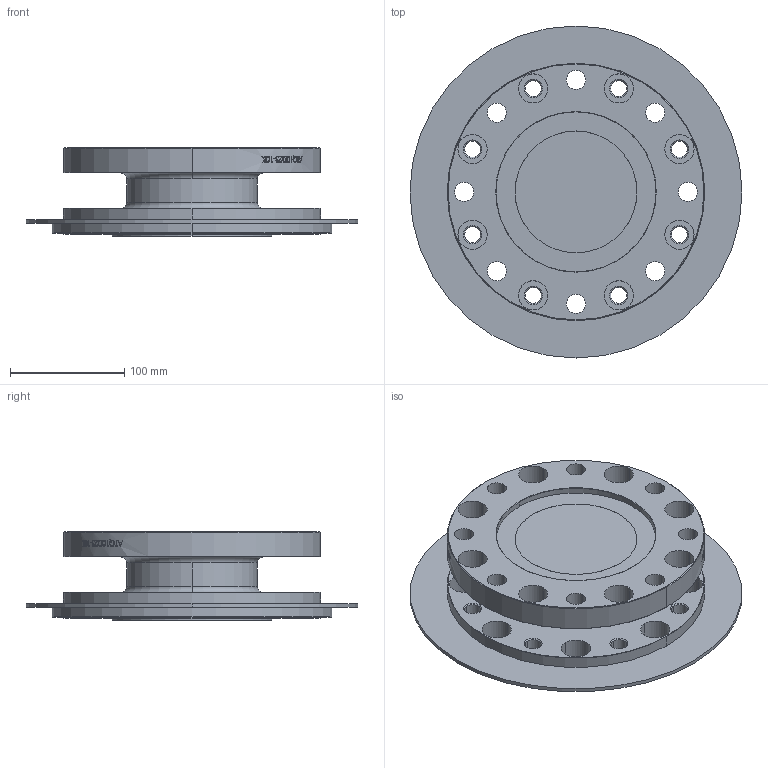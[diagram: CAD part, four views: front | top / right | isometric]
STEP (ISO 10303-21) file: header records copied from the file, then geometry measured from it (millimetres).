
FILE_DESCRIPTION (( 'STEP AP203' ), '1' );
FILE_NAME ('15958stp ready.STEP', '2019-01-25T15:13:03', ( '' ), ( '' ), 'SwSTEP 2.0', 'SolidWorks 2018', '' );
FILE_SCHEMA (( 'CONFIG_CONTROL_DESIGN' ));
Length unit declared in the file: inch
Products named in the file (1): 15958stp ready
Bounding box: 290.58 x 290.58 x 77.72 mm (x, y, z)
Volume: 1947642.4 mm3; surface area: 266158.3 mm2
Topology: 1 solids, 3 shells, 525 faces, 1350 edges, 884 vertices
Faces by surface type: bspline 198, plane 146, cylinder 131, cone 46, torus 4
Entity records: 48325 total; most frequent: CARTESIAN_POINT 36830, ORIENTED_EDGE 2700, DIRECTION 1757, EDGE_CURVE 1350, VERTEX_POINT 884, AXIS2_PLACEMENT_3D 724, B_SPLINE_CURVE_WITH_KNOTS 645, EDGE_LOOP 642
